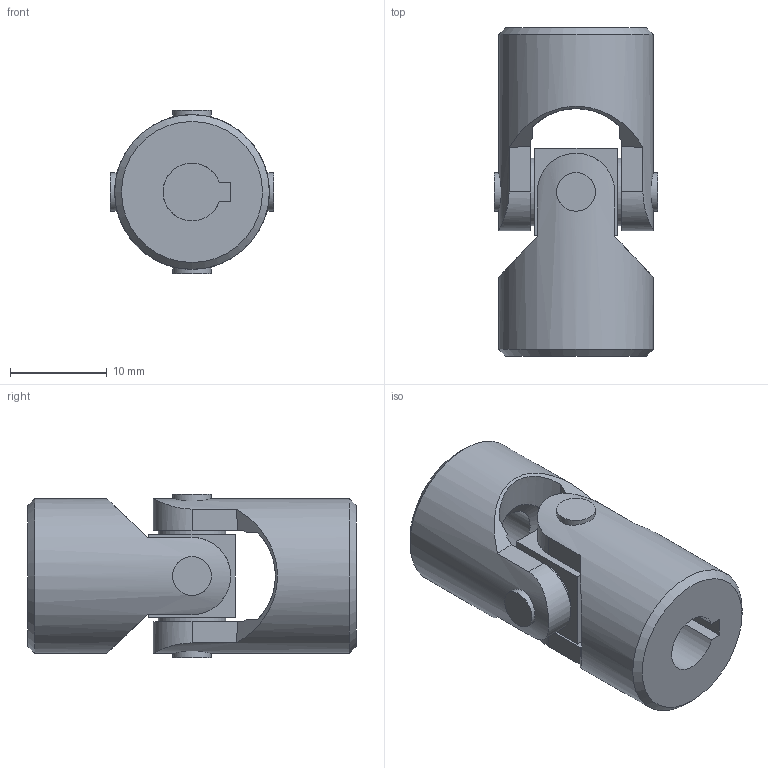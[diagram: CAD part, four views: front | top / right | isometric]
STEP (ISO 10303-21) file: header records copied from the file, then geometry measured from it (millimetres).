
FILE_DESCRIPTION(/* description */ ('EXTENSIBLE TRANSIMISSIONS Series G DIN 808 -2-'),/* implementation_level */ '2;1');
FILE_NAME(/* name */ '\\SRV2016\societa\Stefano\Disegni 3D\0Catalogo 3D\13Singoli X\Ø16_01X_SX0S062C.stp',/* time_stamp */ '2023-05-12T15:50:41+02:00',/* author */ ('acquisti'),/* organization */ ('MARIOFERRI'),/* preprocessor_version */ 'ST-DEVELOPER v15.6',/* originating_system */ 'Autodesk Inventor 2015',/* authorisation */ '');
FILE_SCHEMA (('AUTOMOTIVE_DESIGN { 1 0 10303 214 3 1 1 }'));
Length unit declared in the file: millimetre
Products named in the file (3): 01-02X SFE; 01X MOC; Ø16_01X_SX0S0600
Assembly tree (3 placements, depth 2):
  Ø16_01X_SX0S0600
    01-02X SFE
    01X MOC  x2
Bounding box: 16.9 x 34 x 16.9 mm (x, y, z)
Volume: 4847 mm3; surface area: 3349.6 mm2
Topology: 3 solids, 3 shells, 70 faces, 178 edges, 120 vertices
Faces by surface type: plane 38, cylinder 18, cone 12, torus 2
Full cylindrical faces by diameter (mm): 4 x4, 7 x4, 8.5 x2, 16 x2
Entity records: 1384 total; most frequent: CARTESIAN_POINT 435, DIRECTION 181, ORIENTED_EDGE 172, EDGE_CURVE 86, AXIS2_PLACEMENT_3D 75, VERTEX_POINT 64, EDGE_LOOP 60, FACE_OUTER_BOUND 42
